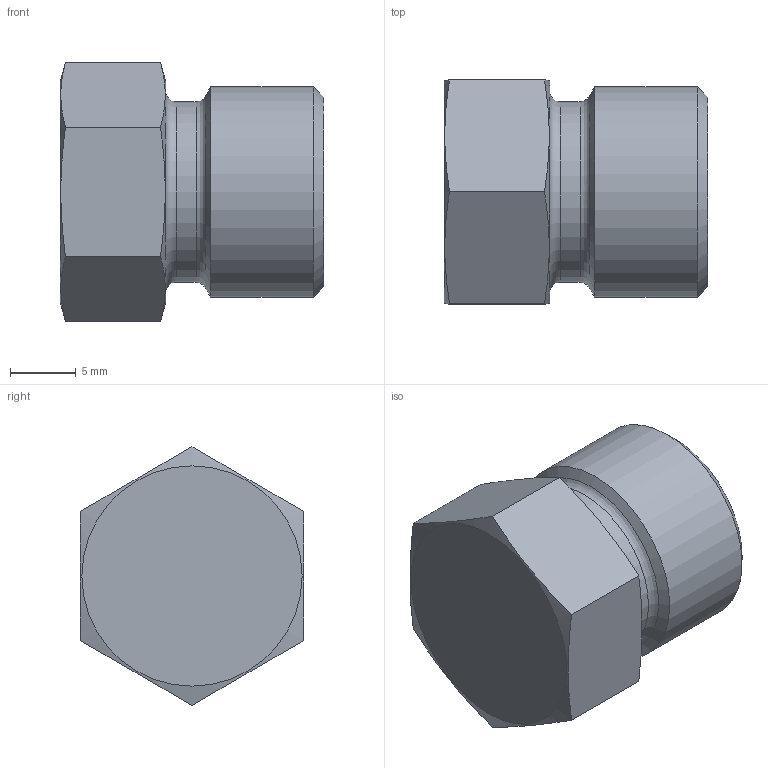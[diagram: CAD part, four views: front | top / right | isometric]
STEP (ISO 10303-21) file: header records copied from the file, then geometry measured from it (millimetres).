
FILE_DESCRIPTION( ( 'Unknown' ), '1' );
FILE_NAME( 'C:/Users/p.nanko/Desktop/3D SR/XROV08S.stp', 'Unknown', ( 'Peter Nanko' ), ( 'Armaturen Arndt' ), 'PSStep 14.0', 'Solid Edge ST4', ' ' );
FILE_SCHEMA( ( 'AUTOMOTIVE_DESIGN { 1 0 10303 214 1 1 1 1 }' ) );
Length unit declared in the file: millimetre
Products named in the file (1): 1
Bounding box: 20 x 17 x 19.63 mm (x, y, z)
Volume: 3704.6 mm3; surface area: 1824.3 mm2
Topology: 1 solids, 1 shells, 22 faces, 47 edges, 29 vertices
Faces by surface type: plane 10, cone 6, cylinder 4, torus 2
Full cylindrical faces by diameter (mm): 5 x1, 8 x1, 13.7 x1, 16 x1
Entity records: 734 total; most frequent: CARTESIAN_POINT 142, DIRECTION 80, ORIENTED_EDGE 64, AXIS2_PLACEMENT_3D 37, EDGE_LOOP 36, EDGE_CURVE 32, FACE_OUTER_BOUND 28, VERTEX_POINT 27
